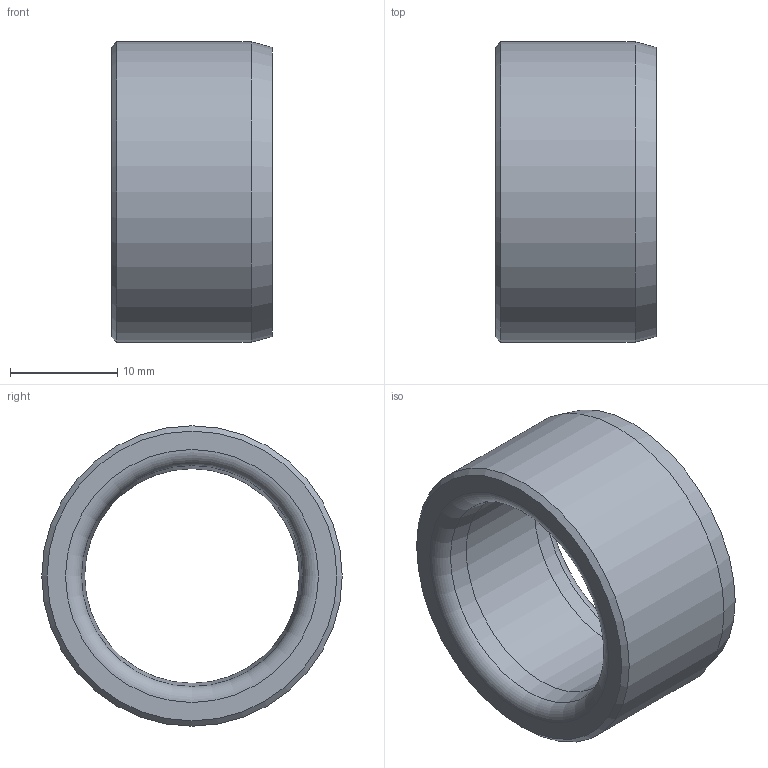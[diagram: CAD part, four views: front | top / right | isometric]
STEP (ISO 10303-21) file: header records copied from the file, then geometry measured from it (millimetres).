
FILE_DESCRIPTION(/* description */ (''),/* implementation_level */ '2;1');
FILE_NAME(/* name */ '',/* time_stamp */ '2024-07-29T13:45:44+09:00',/* author */ ('jhkim'),/* organization */ (''),/* preprocessor_version */ 'ST-DEVELOPER v20',/* originating_system */ 'Autodesk Inventor 2025',/* authorisation */ '');
FILE_SCHEMA (('AUTOMOTIVE_DESIGN { 1 0 10303 214 3 1 1 }'));
Length unit declared in the file: millimetre
Products named in the file (1): 오일레스 부시
Bounding box: 15 x 28 x 28 mm (x, y, z)
Volume: 4322.2 mm3; surface area: 2688.8 mm2
Topology: 1 solids, 1 shells, 10 faces, 20 edges, 12 vertices
Faces by surface type: cone 4, cylinder 2, plane 2, torus 2
Full cylindrical faces by diameter (mm): 20 x1, 28 x1
Entity records: 313 total; most frequent: DIRECTION 56, CARTESIAN_POINT 43, ORIENTED_EDGE 40, AXIS2_PLACEMENT_3D 25, EDGE_CURVE 20, CIRCLE 14, EDGE_LOOP 12, VERTEX_POINT 12
